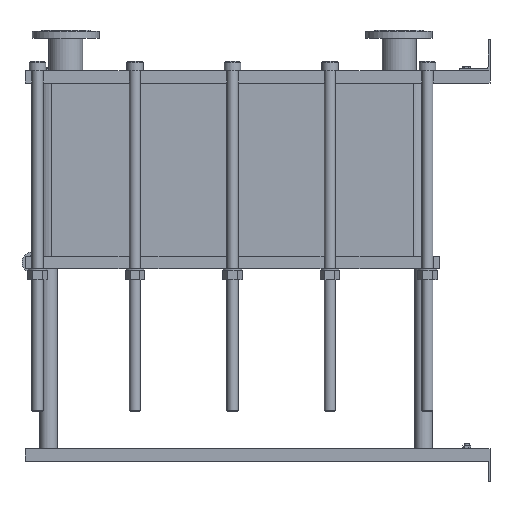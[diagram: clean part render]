
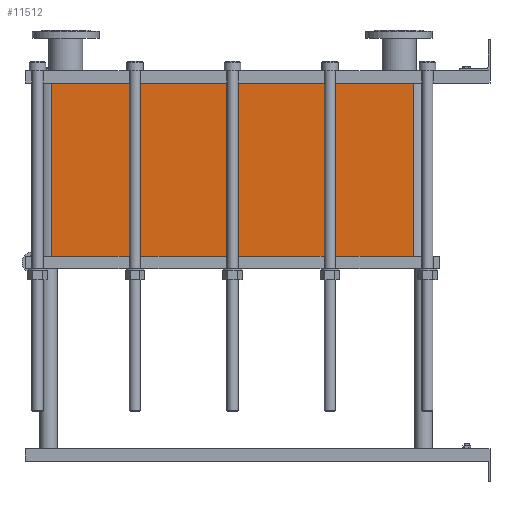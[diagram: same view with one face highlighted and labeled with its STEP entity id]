
A CAD part, left-side view. The second image highlights one B-rep face of the part: STEP entity #11512.
In plain terms, the highlighted planar face has unit normal (-1, 0, 0).
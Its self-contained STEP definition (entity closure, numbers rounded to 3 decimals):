
#1129=LINE('',#23232,#2102);
#1130=LINE('',#23236,#2103);
#1131=LINE('',#23238,#2104);
#1132=LINE('',#23239,#2105);
#2102=VECTOR('',#15887,10.);
#2103=VECTOR('',#15892,10.);
#2104=VECTOR('',#15893,10.);
#2105=VECTOR('',#15894,10.);
#3267=FACE_OUTER_BOUND('',#4093,.T.);
#4093=EDGE_LOOP('',(#10103,#10104,#10105,#10106));
#5642=VERTEX_POINT('',#23229);
#5643=VERTEX_POINT('',#23231);
#5644=VERTEX_POINT('',#23235);
#5645=VERTEX_POINT('',#23237);
#7159=EDGE_CURVE('',#5643,#5642,#1129,.T.);
#7161=EDGE_CURVE('',#5642,#5644,#1130,.T.);
#7162=EDGE_CURVE('',#5645,#5644,#1131,.T.);
#7163=EDGE_CURVE('',#5645,#5643,#1132,.T.);
#10103=ORIENTED_EDGE('',*,*,#7161,.T.);
#10104=ORIENTED_EDGE('',*,*,#7162,.F.);
#10105=ORIENTED_EDGE('',*,*,#7163,.T.);
#10106=ORIENTED_EDGE('',*,*,#7159,.T.);
#10857=PLANE('',#12751);
#11512=ADVANCED_FACE('',(#3267),#10857,.T.);
#12751=AXIS2_PLACEMENT_3D('',#23234,#15890,#15891);
#15887=DIRECTION('',(0.,0.,-1.));
#15890=DIRECTION('center_axis',(-1.,0.,0.));
#15891=DIRECTION('ref_axis',(0.,1.,0.));
#15892=DIRECTION('',(0.,-1.,0.));
#15893=DIRECTION('',(0.,0.,-1.));
#15894=DIRECTION('',(0.,1.,0.));
#23229=CARTESIAN_POINT('',(-200.,1414.,-558.9));
#23231=CARTESIAN_POINT('',(-200.,1414.,0.));
#23232=CARTESIAN_POINT('',(-200.,1414.,0.));
#23234=CARTESIAN_POINT('Origin',(-200.,248.,0.));
#23235=CARTESIAN_POINT('',(-200.,248.,-558.9));
#23236=CARTESIAN_POINT('',(-200.,539.5,-558.9));
#23237=CARTESIAN_POINT('',(-200.,248.,0.));
#23238=CARTESIAN_POINT('',(-200.,248.,0.));
#23239=CARTESIAN_POINT('',(-200.,248.,0.));
